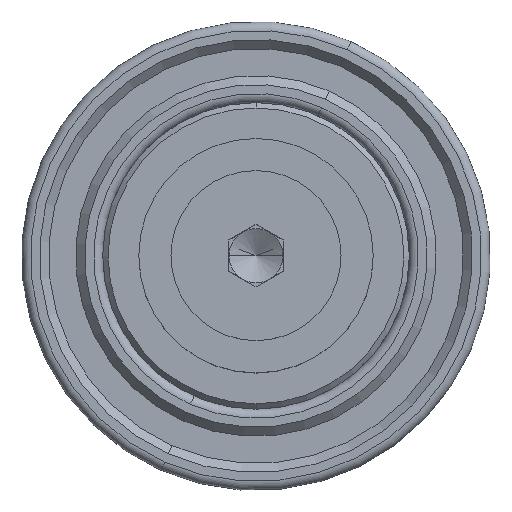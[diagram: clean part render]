
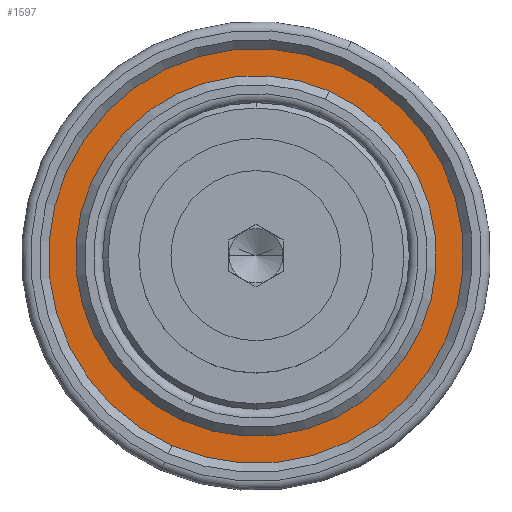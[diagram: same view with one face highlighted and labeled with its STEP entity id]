
A CAD part, top view. The second image highlights one B-rep face of the part: STEP entity #1597.
In plain terms, the highlighted planar face has unit normal (0, 0, 1) as drawn and (1, 0, 0) by its records, which use the part's own axes.
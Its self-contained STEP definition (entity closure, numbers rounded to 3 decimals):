
#76 = DIRECTION ( 'NONE',  ( 0., 0., -1. ) ) ;
#77 = DIRECTION ( 'NONE',  ( 1., 0., 0. ) ) ;
#78 = CARTESIAN_POINT ( 'NONE',  ( 2., 0., 0. ) ) ;
#305 = DIRECTION ( 'NONE',  ( 0., 0., -1. ) ) ;
#306 = DIRECTION ( 'NONE',  ( 1., 0., 0. ) ) ;
#307 = CARTESIAN_POINT ( 'NONE',  ( 2., 0., 0. ) ) ;
#629 = CIRCLE ( 'NONE', #673, 11.5 ) ;
#648 = AXIS2_PLACEMENT_3D ( 'NONE', #2354, #2353, #2351 ) ;
#673 = AXIS2_PLACEMENT_3D ( 'NONE', #2374, #2373, #2372 ) ;
#1242 = EDGE_CURVE ( 'NONE', #3480, #3437, #2707, .T. ) ;
#1376 = EDGE_CURVE ( 'NONE', #3476, #3481, #3100, .T. ) ;
#1408 = EDGE_CURVE ( 'NONE', #3437, #3480, #3042, .T. ) ;
#1591 = EDGE_CURVE ( 'NONE', #3481, #3476, #629, .T. ) ;
#1597 = ADVANCED_FACE ( 'NONE', ( #4639, #4640 ), #2355, .T. ) ;
#1935 = CARTESIAN_POINT ( 'NONE',  ( 2., 0., -11.5 ) ) ;
#1936 = CARTESIAN_POINT ( 'NONE',  ( 2., 0., 10. ) ) ;
#1941 = CARTESIAN_POINT ( 'NONE',  ( 2., 0., 11.5 ) ) ;
#1995 = CARTESIAN_POINT ( 'NONE',  ( 2., 0., -10. ) ) ;
#2351 = DIRECTION ( 'NONE',  ( 0., 0., -1. ) ) ;
#2353 = DIRECTION ( 'NONE',  ( 1., 0., 0. ) ) ;
#2354 = CARTESIAN_POINT ( 'NONE',  ( 2., 11.5, 0. ) ) ;
#2355 = PLANE ( 'NONE',  #648 ) ;
#2372 = DIRECTION ( 'NONE',  ( 0., 0., -1. ) ) ;
#2373 = DIRECTION ( 'NONE',  ( 1., 0., 0. ) ) ;
#2374 = CARTESIAN_POINT ( 'NONE',  ( 2., 0., 0. ) ) ;
#2622 = CARTESIAN_POINT ( 'NONE',  ( 2., 0., 0. ) ) ;
#2664 = DIRECTION ( 'NONE',  ( 0., 0., -1. ) ) ;
#2666 = DIRECTION ( 'NONE',  ( 1., 0., 0. ) ) ;
#2707 = CIRCLE ( 'NONE', #2713, 10. ) ;
#2713 = AXIS2_PLACEMENT_3D ( 'NONE', #2622, #2666, #2664 ) ;
#3037 = AXIS2_PLACEMENT_3D ( 'NONE', #307, #306, #305 ) ;
#3042 = CIRCLE ( 'NONE', #3037, 10. ) ;
#3097 = AXIS2_PLACEMENT_3D ( 'NONE', #78, #77, #76 ) ;
#3100 = CIRCLE ( 'NONE', #3097, 11.5 ) ;
#3437 = VERTEX_POINT ( 'NONE', #1995 ) ;
#3476 = VERTEX_POINT ( 'NONE', #1941 ) ;
#3480 = VERTEX_POINT ( 'NONE', #1936 ) ;
#3481 = VERTEX_POINT ( 'NONE', #1935 ) ;
#3847 = ORIENTED_EDGE ( 'NONE', *, *, #1408, .F. ) ;
#3849 = ORIENTED_EDGE ( 'NONE', *, *, #1242, .F. ) ;
#3850 = ORIENTED_EDGE ( 'NONE', *, *, #1376, .T. ) ;
#3851 = ORIENTED_EDGE ( 'NONE', *, *, #1591, .T. ) ;
#4284 = EDGE_LOOP ( 'NONE', ( #3851, #3850 ) ) ;
#4285 = EDGE_LOOP ( 'NONE', ( #3849, #3847 ) ) ;
#4639 = FACE_OUTER_BOUND ( 'NONE', #4284, .T. ) ;
#4640 = FACE_BOUND ( 'NONE', #4285, .T. ) ;
